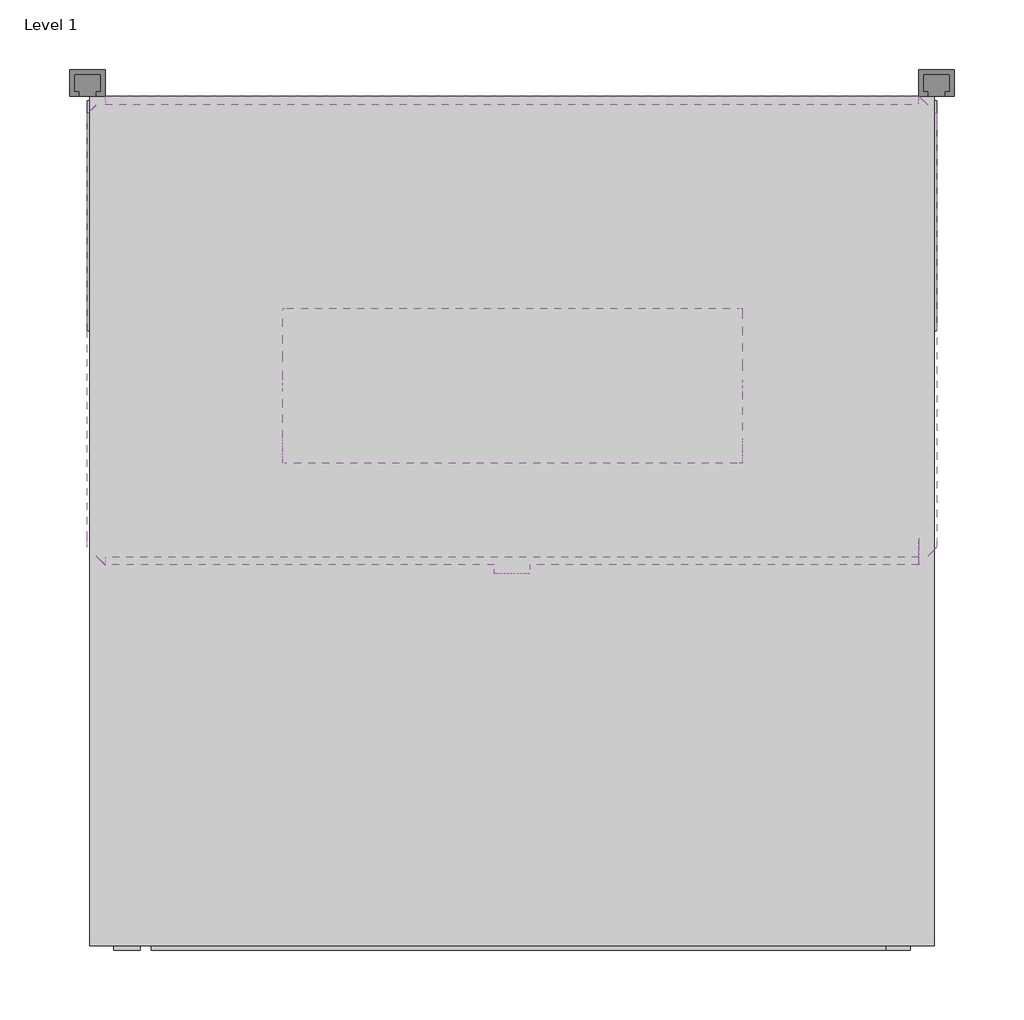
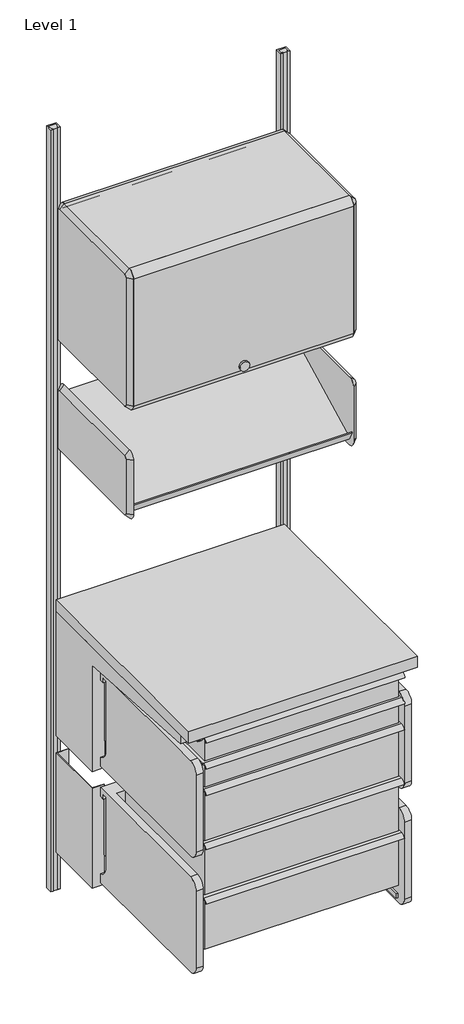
# One storey: 14 furniture elements, 1 light fixture.
"""IFC4 building model written with IfcOpenShell, lengths in millimetres."""

from ifc_helpers import new_model, si_unit, origin, place, context, project, spatial, transform, mapped, element, save
from components import furniture_7f08a233, furniture_fea97cc0, furniture_d69c6384, furniture_56be9a9d, furniture_678b780f, furniture_e85cce18, furniture_03e73c74, furniture_ea425779, a_3_959e08d9, a_3_3943aac6, b_6_f3207868, b_6_2be62e06, b_6_bdab6ed6, light_fixture_29e651cd

model = new_model("IFC4")

# Units and contexts
model_context = context("Model", 3, world=origin())
ifc_project = project(units=[si_unit("LENGTHUNIT", "METRE", prefix="MILLI")], contexts=[model_context])

# Site, building, storey
site = spatial("IfcSite", under=ifc_project)
building = spatial("IfcBuilding", under=site)
storey = spatial("IfcBuildingStorey", under=building, Name="Level 1", Elevation=0.0)

# Furniture
placement = place(None, origin())
furniture_shape = furniture_7f08a233(model_context)
element("IfcFurniture", 1, ObjectType="HermanMiller_CoStruc_C2141_Heavy-DutyWorkSurface : 24\"D x 24\"W Lam", at=placement, inside=storey, context=model_context, shape_type="MappedRepresentation", body=[
    mapped(furniture_shape, transform((304.8, -196.85, 0.0), x_axis=(1.0, 0.0, 0.0), y_axis=(0.0, 1.0, 0.0), z_axis=(0.0, 0.0, 1.0))),
])
furniture_2_shape = furniture_fea97cc0(model_context)
element("IfcFurniture", 2, ObjectType="HermanMiller_ActionOffice_A3352_B-StyleFlipperDoorUnit : 15 1/2\"H x 13\"D x 24\"W", at=placement, inside=storey, context=model_context, shape_type="MappedRepresentation", body=[
    mapped(furniture_2_shape, transform((304.8, -200.025, 0.0), x_axis=(1.0, 0.0, 0.0), y_axis=(0.0, 1.0, 0.0), z_axis=(0.0, 0.0, 1.0))),
])
furniture_3_shape = furniture_d69c6384(model_context)
element("IfcFurniture", 3, ObjectType="HermanMiller_CoStruc_CO205_CFrame : 10\"H x 17\"D x 22\"W", at=placement, inside=storey, context=model_context, shape_type="MappedRepresentation", body=[
    mapped(furniture_3_shape, transform((209.8622951, -274.7713997, 0.0), x_axis=(1.0, 0.0, 0.0), y_axis=(0.0, 1.0, 0.0), z_axis=(0.0, 0.0, 1.0))),
])
furniture_4_shape = furniture_56be9a9d(model_context)
element("IfcFurniture", 4, ObjectType="HermanMiller_CoStruc_CO205_CFrame : 10\"H x 17\"D x 22\"W", at=placement, inside=storey, context=model_context, shape_type="MappedRepresentation", body=[
    mapped(furniture_4_shape, transform((209.8622951, -274.7713997, 0.0), x_axis=(1.0, 0.0, 0.0), y_axis=(0.0, 1.0, 0.0), z_axis=(0.0, 0.0, 1.0))),
])
furniture_5_shape = furniture_678b780f(model_context)
element("IfcFurniture", 5, ObjectType="HermanMiller_CoStruc_C2192_CFrameSupport : 11\"H x 24\"D x 24\"W", at=placement, inside=storey, context=model_context, shape_type="MappedRepresentation", body=[
    mapped(furniture_5_shape, transform((304.79746, 104.02443, 0.0), x_axis=(1.0, 0.0, 0.0), y_axis=(0.0, 1.0, 0.0), z_axis=(0.0, 0.0, 1.0))),
])
furniture_6_shape = furniture_e85cce18(model_context)
element("IfcFurniture", 6, ObjectType="HermanMiller_CoStruc_C2140W_WorkSurfaceSupport_ComponentAdaptor : 14\"H x 24\"D x 24\"W", at=placement, inside=storey, context=model_context, shape_type="MappedRepresentation", body=[
    mapped(furniture_6_shape, transform((304.8, -196.85, 0.0), x_axis=(1.0, 0.0, 0.0), y_axis=(0.0, 1.0, 0.0), z_axis=(0.0, 0.0, 1.0))),
])
furniture_7_shape = furniture_03e73c74(model_context)
element("IfcFurniture", 7, ObjectType="HermanMiller_ActionOffice_A3220_B-StyleStorageDisplay : Display 13\"D x 24\"W", at=placement, inside=storey, context=model_context, shape_type="MappedRepresentation", body=[
    mapped(furniture_7_shape, transform((428.7420045, -200.025, 0.0), x_axis=(1.0, 0.0, 0.0), y_axis=(0.0, 1.0, 0.0), z_axis=(0.0, 0.0, 1.0))),
])
furniture_8_shape = furniture_ea425779(model_context)
element("IfcFurniture", 8, ObjectType="HermanMiller_ActionOffice_AO213_WallStrip : 84\"H", at=placement, inside=storey, context=model_context, shape_type="MappedRepresentation", body=[
    mapped(furniture_8_shape, transform((609.6, 0.0, 0.0), x_axis=(1.0, 0.0, 0.0), y_axis=(0.0, 1.0, 0.0), z_axis=(0.0, 0.0, 1.0))),
])
element("IfcFurniture", 9, ObjectType="HermanMiller_ActionOffice_AO213_WallStrip : 84\"H", at=placement, inside=storey, context=model_context, shape_type="MappedRepresentation", body=[
    mapped(furniture_8_shape, transform((0.0, 0.0, 0.0), x_axis=(1.0, 0.0, 0.0), y_axis=(0.0, 1.0, 0.0), z_axis=(0.0, 0.0, 1.0))),
])
a_3_shape = a_3_959e08d9(model_context)
element("IfcFurniture", 10, ObjectType="HermanMiller_CoStruc_CO207_Drawer : A - 3", at=placement, inside=storey, context=model_context, shape_type="MappedRepresentation", body=[
    mapped(a_3_shape, transform((309.4824517, -436.5879, 0.0), x_axis=(1.0, 0.0, 0.0), y_axis=(0.0, 1.0, 0.0), z_axis=(0.0, 0.0, 1.0))),
])
a_3_2_shape = a_3_3943aac6(model_context)
element("IfcFurniture", 11, ObjectType="HermanMiller_CoStruc_CO207_Drawer : A - 3", at=placement, inside=storey, context=model_context, shape_type="MappedRepresentation", body=[
    mapped(a_3_2_shape, transform((309.4824517, -436.5879, 0.0), x_axis=(1.0, 0.0, 0.0), y_axis=(0.0, 1.0, 0.0), z_axis=(0.0, 0.0, 1.0))),
])
b_6_shape = b_6_f3207868(model_context)
element("IfcFurniture", 12, ObjectType="HermanMiller_CoStruc_CO207_Drawer : B - 6", at=placement, inside=storey, context=model_context, shape_type="MappedRepresentation", body=[
    mapped(b_6_shape, transform((309.4824517, -436.5879, 0.0), x_axis=(1.0, 0.0, 0.0), y_axis=(0.0, 1.0, 0.0), z_axis=(0.0, 0.0, 1.0))),
])
b_6_2_shape = b_6_2be62e06(model_context)
element("IfcFurniture", 13, ObjectType="HermanMiller_CoStruc_CO207_Drawer : B - 6", at=placement, inside=storey, context=model_context, shape_type="MappedRepresentation", body=[
    mapped(b_6_2_shape, transform((309.4824517, -436.5879, 0.0), x_axis=(1.0, 0.0, 0.0), y_axis=(0.0, 1.0, 0.0), z_axis=(0.0, 0.0, 1.0))),
])
b_6_3_shape = b_6_bdab6ed6(model_context)
element("IfcFurniture", 14, ObjectType="HermanMiller_CoStruc_CO207_Drawer : B - 6", at=placement, inside=storey, context=model_context, shape_type="MappedRepresentation", body=[
    mapped(b_6_3_shape, transform((309.4824517, -436.5879, 0.0), x_axis=(1.0, 0.0, 0.0), y_axis=(0.0, 1.0, 0.0), z_axis=(0.0, 0.0, 1.0))),
])

# Light fixture
light_fixture_shape = light_fixture_29e651cd(model_context)
element("IfcLightFixture", 15, ObjectType="HermanMiller_SupplementalProducts_G6136_UtilityTaskLight : AO Etho Canvas 24W", at=placement, inside=storey, context=model_context, shape_type="MappedRepresentation", body=[
    mapped(light_fixture_shape, transform((304.8, -227.0125, 25.4), x_axis=(1.0, 0.0, 0.0), y_axis=(0.0, 1.0, 0.0), z_axis=(0.0, 0.0, 1.0))),
])

save(model, "model.ifc")
